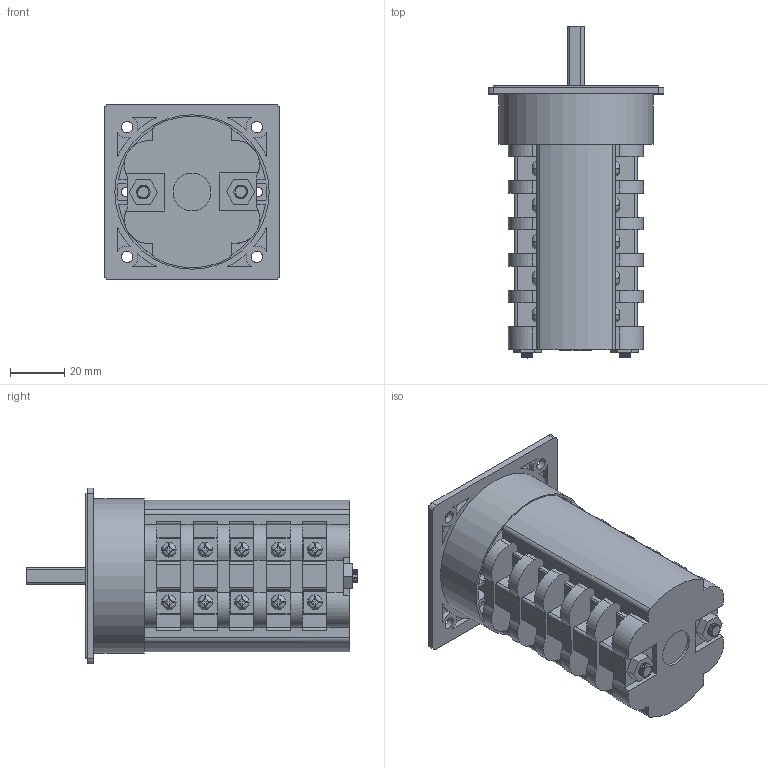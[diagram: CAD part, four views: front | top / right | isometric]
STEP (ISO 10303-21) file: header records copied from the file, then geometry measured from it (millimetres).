
FILE_DESCRIPTION(/* description */ (''),/* implementation_level */ '2;1');
FILE_NAME(/* name */ '4G16,25_standard_5_korpusow.stp',/* time_stamp */ '2021-07-21T13:49:21+02:00',/* author */ (''),/* organization */ (''),/* preprocessor_version */ 'ST-DEVELOPER v18.1',/* originating_system */ 'SIEMENS PLM Software NX 1965',/* authorisation */ '');
FILE_SCHEMA (('AUTOMOTIVE_DESIGN { 1 0 10303 214 3 1 1 1 }'));
Products named in the file (1): 4G16,25_standard_5_korpusow_stp
Bounding box: 65 x 122.7 x 65 mm (x, y, z)
Volume: 198744 mm3; surface area: 46381.2 mm2
Topology: 1 solids, 5 shells, 1180 faces, 3313 edges, 2189 vertices
Faces by surface type: plane 678, cylinder 339, bspline 122, cone 41
Full cylindrical faces by diameter (mm): 3.3 x3, 4 x4, 4.3 x4, 5 x2, 5.4 x20, 6.5 x2, 7.2 x4, 10 x1, 14 x1, 57 x1
Entity records: 111461 total; most frequent: CARTESIAN_POINT 82562, ORIENTED_EDGE 6384, DIRECTION 5385, EDGE_CURVE 3192, VERTEX_POINT 2136, AXIS2_PLACEMENT_3D 1915, LINE 1555, VECTOR 1555
